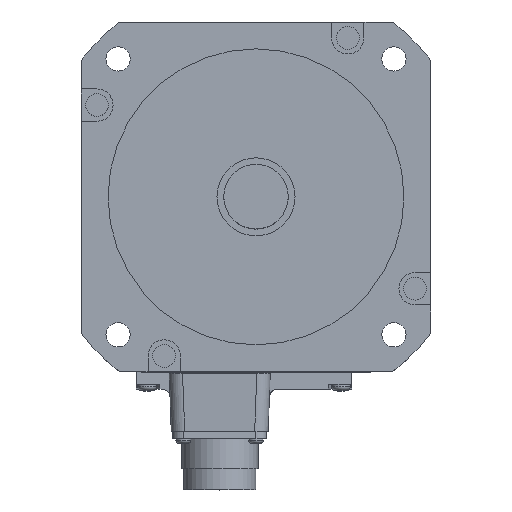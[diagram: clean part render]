
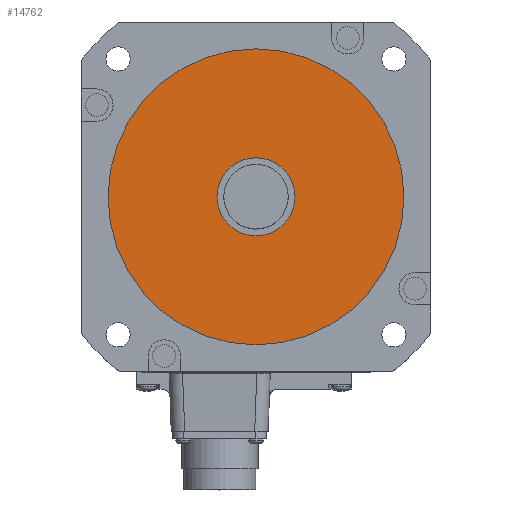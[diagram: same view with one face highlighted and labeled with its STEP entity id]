
A CAD part, top view. The second image highlights one B-rep face of the part: STEP entity #14762.
In plain terms, the highlighted planar face has unit normal (0, 0, 1).
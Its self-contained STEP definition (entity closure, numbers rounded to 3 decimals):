
#5267=CARTESIAN_POINT('',(0.,0.,3.));
#5268=DIRECTION('',(0.,0.,-1.));
#5269=DIRECTION('',(1.,0.,0.));
#5270=AXIS2_PLACEMENT_3D('',#5267,#5268,#5269);
#5272=CARTESIAN_POINT('',(0.,0.,3.));
#5273=DIRECTION('',(0.,0.,-1.));
#5274=DIRECTION('',(-1.,0.,0.));
#5275=AXIS2_PLACEMENT_3D('',#5272,#5273,#5274);
#5277=CARTESIAN_POINT('',(0.,0.,3.));
#5278=DIRECTION('',(0.,0.,1.));
#5279=DIRECTION('',(1.,0.,0.));
#5280=AXIS2_PLACEMENT_3D('',#5277,#5278,#5279);
#5282=CARTESIAN_POINT('',(0.,0.,3.));
#5283=DIRECTION('',(0.,0.,1.));
#5284=DIRECTION('',(-1.,0.,0.));
#5285=AXIS2_PLACEMENT_3D('',#5282,#5283,#5284);
#5944=CARTESIAN_POINT('',(55.,0.,3.));
#5945=VERTEX_POINT('',#5944);
#5946=CARTESIAN_POINT('',(-55.,0.,3.));
#5947=VERTEX_POINT('',#5946);
#6857=CARTESIAN_POINT('',(14.5,0.,3.));
#6858=CARTESIAN_POINT('',(-14.5,0.,3.));
#6859=VERTEX_POINT('',#6857);
#6860=VERTEX_POINT('',#6858);
#14746=CARTESIAN_POINT('',(0.,0.,3.));
#14747=DIRECTION('',(0.,0.,1.));
#14748=DIRECTION('',(1.,0.,0.));
#14749=AXIS2_PLACEMENT_3D('',#14746,#14747,#14748);
#14750=PLANE('',#14749);
#14751=ORIENTED_EDGE('',*,*,#14736,.T.);
#14753=ORIENTED_EDGE('',*,*,#14752,.T.);
#14754=EDGE_LOOP('',(#14751,#14753));
#14755=FACE_OUTER_BOUND('',#14754,.F.);
#14757=ORIENTED_EDGE('',*,*,#14756,.T.);
#14759=ORIENTED_EDGE('',*,*,#14758,.T.);
#14760=EDGE_LOOP('',(#14757,#14759));
#14761=FACE_BOUND('',#14760,.F.);
#14762=ADVANCED_FACE('',(#14755,#14761),#14750,.T.);
#5271=CIRCLE('',#5270,55.);
#5276=CIRCLE('',#5275,55.);
#5281=CIRCLE('',#5280,14.5);
#5286=CIRCLE('',#5285,14.5);
#14736=EDGE_CURVE('',#5945,#5947,#5271,.T.);
#14752=EDGE_CURVE('',#5947,#5945,#5276,.T.);
#14756=EDGE_CURVE('',#6859,#6860,#5281,.T.);
#14758=EDGE_CURVE('',#6860,#6859,#5286,.T.);
